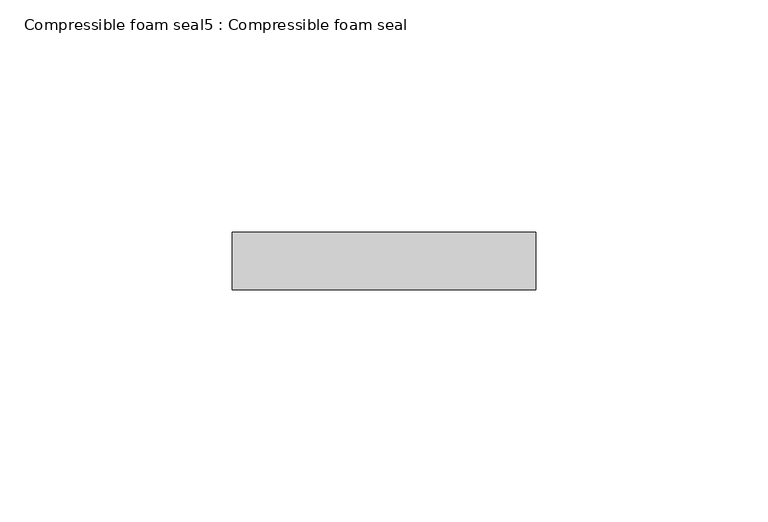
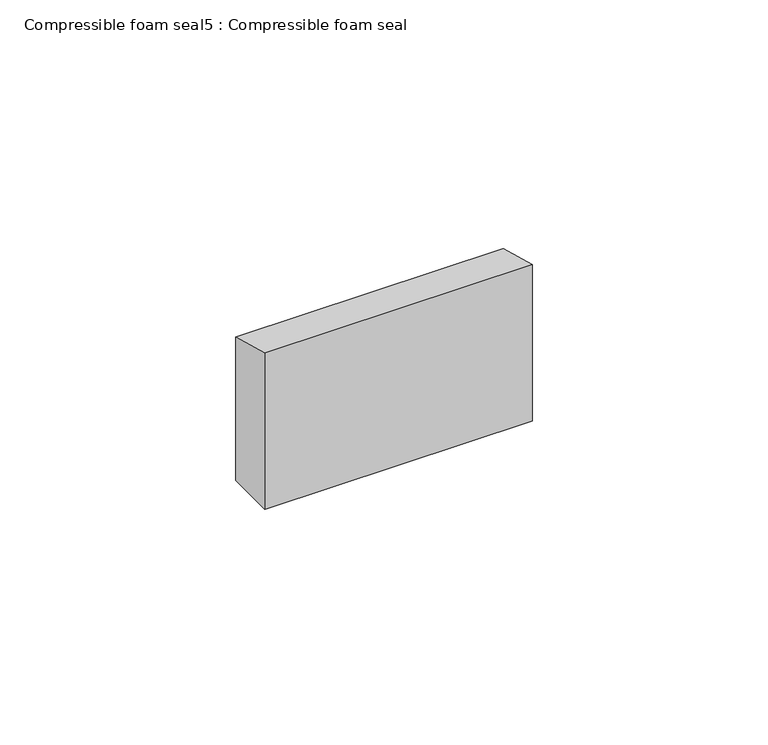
"""IFC4 building model written with IfcOpenShell, lengths in millimetres: proxy geometry, Compressible foam seal5 : Compressible foam seal."""

import ifcopenshell
import ifcopenshell.guid

model = None  # the IFC model being written
_history = None  # IfcOwnerHistory: only IFC2X3 demands one
_inside = {}  # id of a spatial element -> (the spatial element, [elements in it])
_under = {}  # id of a project, library or spatial element -> (it, [spatial elements below it])
_declared = {}  # id of a project -> (the project, [libraries it declares])
_typed = {}  # id of a type object -> (the type object, [elements of that type])
_made_of = {}  # id of a material, layer set ... -> (it, [elements and type objects made of it])


def new_model(schema):
    """Start an empty IFC model of exactly this schema.

    Asked for "IFC4X3", IfcOpenShell would pick the latest addendum, in which some entities
    have other attributes; the version numbers below select the first issue.
    IFC2X3 requires an IfcOwnerHistory on every rooted entity: one is made here for all.
    """
    global model, _history
    if schema == "IFC4X3":
        model = ifcopenshell.file(schema_version=(4, 3, 0, 0))
    else:
        model = ifcopenshell.file(schema=schema)
    _inside.clear()
    _under.clear()
    _declared.clear()
    _typed.clear()
    _made_of.clear()
    _history = None
    if model.schema == "IFC2X3":
        org = make("IfcOrganization", Name="unknown")
        user = make(
            "IfcPersonAndOrganization",
            ThePerson=make("IfcPerson", FamilyName="unknown"),
            TheOrganization=org,
        )
        app = make(
            "IfcApplication",
            ApplicationDeveloper=org,
            Version="unknown",
            ApplicationFullName="unknown",
            ApplicationIdentifier="unknown",
        )
        _history = make(
            "IfcOwnerHistory",
            OwningUser=user,
            OwningApplication=app,
            ChangeAction="ADDED",
            CreationDate=0,
        )
    return model


def make(cls, **values):
    """One entity of the class cls with the attributes given. An attribute that is None is left unset."""
    return model.create_entity(
        cls, **{name: value for name, value in values.items() if value is not None}
    )


def rooted(cls, **values):
    """An entity with a GlobalId (a new one), such as an element, a storey or a relation."""
    return make(cls, GlobalId=ifcopenshell.guid.new(), OwnerHistory=_history, **values)


def si_unit(unit_type, name, prefix=None):
    """IfcSIUnit, for example si_unit("LENGTHUNIT", "METRE", prefix="MILLI")."""
    return make("IfcSIUnit", UnitType=unit_type, Prefix=prefix, Name=name)


def assignment(units):
    """IfcUnitAssignment: the units of a project."""
    return None if units is None else make("IfcUnitAssignment", Units=units)


def point(xyz):
    """IfcCartesianPoint."""
    return None if xyz is None else make("IfcCartesianPoint", Coordinates=xyz)


def direction(xyz):
    """IfcDirection."""
    return None if xyz is None else make("IfcDirection", DirectionRatios=xyz)


def frame(location, z_axis=None, x_axis=None):
    """IfcAxis2Placement3D, a coordinate frame: its origin and axes. An axis left out is left unset."""
    return make(
        "IfcAxis2Placement3D",
        Location=point(location),
        Axis=direction(z_axis),
        RefDirection=direction(x_axis),
    )


def origin():
    """The frame at (0, 0, 0) with its axes left unset."""
    return frame((0.0, 0.0, 0.0))


def place(relative_to, where):
    """IfcLocalPlacement: puts the frame where relative to a parent placement (None: the world)."""
    return make(
        "IfcLocalPlacement", PlacementRelTo=relative_to, RelativePlacement=where
    )


def context(
    kind, dimensions, precision=None, world=None, true_north=None, identifier=None
):
    """IfcGeometricRepresentationContext, for example the 3D "Model" context."""
    return make(
        "IfcGeometricRepresentationContext",
        ContextIdentifier=identifier,
        ContextType=kind,
        CoordinateSpaceDimension=dimensions,
        Precision=precision,
        WorldCoordinateSystem=world,
        TrueNorth=true_north,
    )


def project(units=None, contexts=None):
    """IfcProject with its units and contexts."""
    return rooted(
        "IfcProject",
        Name="project",
        RepresentationContexts=contexts,
        UnitsInContext=assignment(units),
    )


def spatial(cls, under=None, at=None, **own):
    """A site, building, storey or space (cls), placed at a placement, below another one or the project."""
    s = rooted(cls, ObjectPlacement=at, **own)
    if under is not None:
        _under.setdefault(under.id(), (under, []))[1].append(s)
    return s


def polyline(points):
    """IfcPolyline through the points."""
    return make("IfcPolyline", Points=[point(p) for p in points])


def outline(outer, holes=None, kind="AREA"):
    """IfcArbitraryClosedProfileDef: a profile drawn as a closed curve; with holes, ...WithVoids."""
    if holes is None:
        return make("IfcArbitraryClosedProfileDef", ProfileType=kind, OuterCurve=outer)
    return make(
        "IfcArbitraryProfileDefWithVoids",
        ProfileType=kind,
        OuterCurve=outer,
        InnerCurves=holes,
    )


def extrude(swept, where, along, depth):
    """IfcExtrudedAreaSolid: the profile swept, set in the frame where, extruded along a direction by depth."""
    return make(
        "IfcExtrudedAreaSolid",
        SweptArea=swept,
        Position=where,
        ExtrudedDirection=direction(along),
        Depth=depth,
    )


def shape(context_of_items, identifier, shape_type, items):
    """IfcShapeRepresentation: the items that make up one representation, for example the "Body"."""
    return make(
        "IfcShapeRepresentation",
        ContextOfItems=context_of_items,
        RepresentationIdentifier=identifier,
        RepresentationType=shape_type,
        Items=items,
    )


def source(mapping_origin, context_of_items, identifier, shape_type, items):
    """IfcRepresentationMap: a shape defined once, which mapped items show again and again."""
    return make(
        "IfcRepresentationMap",
        MappingOrigin=mapping_origin,
        MappedRepresentation=shape(context_of_items, identifier, shape_type, items),
    )


def transform(
    local_origin,
    x_axis=None,
    y_axis=None,
    z_axis=None,
    scale=None,
    scale2=None,
    scale3=None,
    uniform=True,
):
    """IfcCartesianTransformationOperator3D, or its non-uniform kind. x_axis, y_axis, z_axis: its Axis1, 2, 3."""
    if uniform:
        return make(
            "IfcCartesianTransformationOperator3D",
            Axis1=direction(x_axis),
            Axis2=direction(y_axis),
            LocalOrigin=point(local_origin),
            Scale=scale,
            Axis3=direction(z_axis),
        )
    return make(
        "IfcCartesianTransformationOperator3DnonUniform",
        Axis1=direction(x_axis),
        Axis2=direction(y_axis),
        LocalOrigin=point(local_origin),
        Scale=scale,
        Axis3=direction(z_axis),
        Scale2=scale2,
        Scale3=scale3,
    )


def mapped(mapping_source, mapping_target):
    """IfcMappedItem: shows the shape of a source again, moved by a transform."""
    return make(
        "IfcMappedItem", MappingSource=mapping_source, MappingTarget=mapping_target
    )


def made_of(thing, what):
    """Note that an element or type object is made of a material, layer set ...; save() writes the relation."""
    if what is not None:
        _made_of.setdefault(what.id(), (what, []))[1].append(thing)
    return thing


def element(
    cls,
    number,
    at=None,
    inside=None,
    cuts=None,
    type_object=None,
    material=None,
    context=None,
    identifier="Body",
    shape_type=None,
    held_by="IfcProductDefinitionShape",
    body=None,
    shapes=None,
    **own,
):
    """One element of the class cls, such as IfcWall. Its Tag is "e" and its number.

    at: its placement. inside: the storey or other place that contains it. cuts: it is an
    opening in that element (IfcRelVoidsElement). A single representation is given by context,
    identifier, shape_type and body (its items); several are given by shapes. held_by: the class
    of the entity that holds the representations. save() writes the other relations.
    """
    e = rooted(cls, Tag="e%d" % number, ObjectPlacement=at, **own)
    if body is not None:
        shapes = [shape(context, identifier, shape_type, body)]
    if shapes is not None:
        e.Representation = make(held_by, Representations=shapes)
    if inside is not None:
        _inside.setdefault(inside.id(), (inside, []))[1].append(e)
    if cuts is not None:
        rooted(
            "IfcRelVoidsElement", RelatingBuildingElement=cuts, RelatedOpeningElement=e
        )
    if type_object is not None:
        _typed.setdefault(type_object.id(), (type_object, []))[1].append(e)
    return made_of(e, material)


def aggregate(whole, parts):
    """IfcRelAggregates: a whole, such as a stair, and the parts it consists of."""
    return rooted("IfcRelAggregates", RelatingObject=whole, RelatedObjects=parts)


def save(model, path):
    """Write the relations noted so far, then the file.

    IfcRelAggregates (storeys below a building ...), IfcRelContainedInSpatialStructure (elements
    in a storey), IfcRelDefinesByType, IfcRelAssociatesMaterial and IfcRelDeclares: one each for
    every whole, place, type object, material and project.
    """
    for whole, parts in _under.values():
        aggregate(whole, parts)
    for where, things in _inside.values():
        rooted(
            "IfcRelContainedInSpatialStructure",
            RelatedElements=things,
            RelatingStructure=where,
        )
    for kind, things in _typed.values():
        rooted("IfcRelDefinesByType", RelatedObjects=things, RelatingType=kind)
    for what, things in _made_of.values():
        rooted("IfcRelAssociatesMaterial", RelatedObjects=things, RelatingMaterial=what)
    for by, libraries in _declared.values():
        rooted("IfcRelDeclares", RelatingContext=by, RelatedDefinitions=libraries)
    model.write(path)


def compressible_foam_seal5_compressible_foam_seal_15a1a777(model_context):
    return source(origin(), model_context, "Body", "SweptSolid", [
        extrude(outline(polyline([(-23644.7603415, 306.4551735), (-23632.3591805, 303.1322924), (-23632.3591805, 265.9589997), (-23644.7603415, 265.9589997), (-23644.7603415, 306.4551735)])), frame((12316.6083732, 0.0, 0.0), z_axis=(1.0, 0.0, 0.0), x_axis=(0.0, 1.0, 0.0)), (0.0, 0.0, 1.0), 65.4852948),
    ])


if __name__ == "__main__":
    model = new_model("IFC4")
    model_context = context("Model", 3, world=origin())
    ifc_project = project(units=[si_unit("LENGTHUNIT", "METRE", prefix="MILLI")], contexts=[model_context])
    site = spatial("IfcSite", under=ifc_project)
    building = spatial("IfcBuilding", under=site)
    placement = place(None, origin())
    compressible_foam_seal5_compressible_foam_seal_shape = compressible_foam_seal5_compressible_foam_seal_15a1a777(model_context)
    element("IfcBuildingElementProxy", 1, Name="Compressible foam seal5 : Compressible foam seal", ObjectType="Compressible foam seal5 : Compressible foam seal", at=placement, inside=building, context=model_context, shape_type="MappedRepresentation", body=[
        mapped(compressible_foam_seal5_compressible_foam_seal_shape, transform((0.0, 0.0, 0.0), x_axis=(1.0, 0.0, 0.0), y_axis=(0.0, 1.0, 0.0), z_axis=(0.0, 0.0, 1.0))),
    ])
    save(model, "model.ifc")
